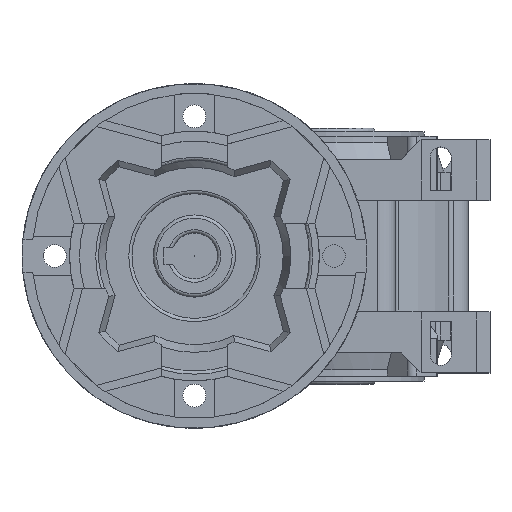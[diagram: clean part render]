
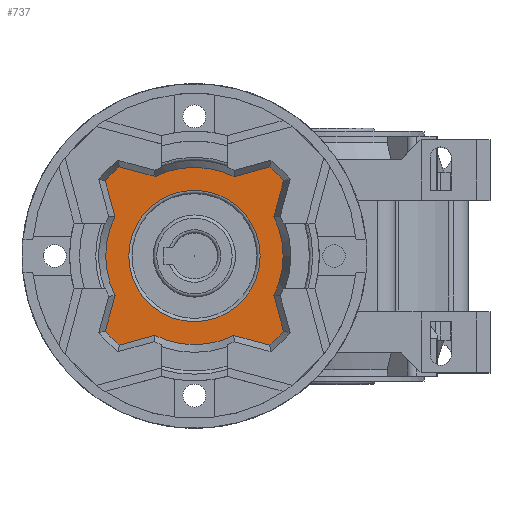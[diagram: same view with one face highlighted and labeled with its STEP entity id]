
A CAD part, top view. The second image highlights one B-rep face of the part: STEP entity #737.
In plain terms, the highlighted planar face has unit normal (0, 0, 1).
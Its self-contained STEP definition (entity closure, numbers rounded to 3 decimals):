
#737 = ADVANCED_FACE( '', ( #2104, #2105 ), #2106, .F. );
#2104 = FACE_BOUND( '', #4186, .T. );
#2105 = FACE_OUTER_BOUND( '', #4187, .T. );
#2106 = PLANE( '', #4188 );
#4186 = EDGE_LOOP( '', ( #6488 ) );
#4187 = EDGE_LOOP( '', ( #6489, #6490, #6491, #6492, #6493, #6494, #6495, #6496, #6497, #6498, #6499, #6500, #6501, #6502, #6503, #6504 ) );
#4188 = AXIS2_PLACEMENT_3D( '', #6505, #6506, #6507 );
#6488 = ORIENTED_EDGE( '', *, *, #12376, .T. );
#6489 = ORIENTED_EDGE( '', *, *, #12377, .F. );
#6490 = ORIENTED_EDGE( '', *, *, #12378, .F. );
#6491 = ORIENTED_EDGE( '', *, *, #12379, .F. );
#6492 = ORIENTED_EDGE( '', *, *, #12380, .F. );
#6493 = ORIENTED_EDGE( '', *, *, #12381, .F. );
#6494 = ORIENTED_EDGE( '', *, *, #12382, .F. );
#6495 = ORIENTED_EDGE( '', *, *, #12383, .F. );
#6496 = ORIENTED_EDGE( '', *, *, #12384, .F. );
#6497 = ORIENTED_EDGE( '', *, *, #12385, .F. );
#6498 = ORIENTED_EDGE( '', *, *, #12386, .F. );
#6499 = ORIENTED_EDGE( '', *, *, #12387, .F. );
#6500 = ORIENTED_EDGE( '', *, *, #12388, .F. );
#6501 = ORIENTED_EDGE( '', *, *, #12389, .F. );
#6502 = ORIENTED_EDGE( '', *, *, #12390, .F. );
#6503 = ORIENTED_EDGE( '', *, *, #12391, .F. );
#6504 = ORIENTED_EDGE( '', *, *, #12392, .F. );
#6505 = CARTESIAN_POINT( '', ( -40., -40., 6. ) );
#6506 = DIRECTION( '', ( 0., 0., -1. ) );
#6507 = DIRECTION( '', ( 1., 0., 0. ) );
#12376 = EDGE_CURVE( '', #14907, #14907, #14908, .T. );
#12377 = EDGE_CURVE( '', #14909, #14910, #14911, .T. );
#12378 = EDGE_CURVE( '', #14912, #14909, #14913, .T. );
#12379 = EDGE_CURVE( '', #14914, #14912, #14915, .T. );
#12380 = EDGE_CURVE( '', #14916, #14914, #14917, .T. );
#12381 = EDGE_CURVE( '', #14918, #14916, #14919, .T. );
#12382 = EDGE_CURVE( '', #14920, #14918, #14921, .T. );
#12383 = EDGE_CURVE( '', #14922, #14920, #14923, .T. );
#12384 = EDGE_CURVE( '', #14924, #14922, #14925, .T. );
#12385 = EDGE_CURVE( '', #14926, #14924, #14927, .T. );
#12386 = EDGE_CURVE( '', #14928, #14926, #14929, .T. );
#12387 = EDGE_CURVE( '', #14930, #14928, #14931, .T. );
#12388 = EDGE_CURVE( '', #14932, #14930, #14933, .T. );
#12389 = EDGE_CURVE( '', #14934, #14932, #14935, .T. );
#12390 = EDGE_CURVE( '', #14936, #14934, #14937, .T. );
#12391 = EDGE_CURVE( '', #14938, #14936, #14939, .T. );
#12392 = EDGE_CURVE( '', #14910, #14938, #14940, .T. );
#14907 = VERTEX_POINT( '', #18552 );
#14908 = CIRCLE( '', #18553, 20. );
#14909 = VERTEX_POINT( '', #18554 );
#14910 = VERTEX_POINT( '', #18555 );
#14911 = CIRCLE( '', #18556, 35.5 );
#14912 = VERTEX_POINT( '', #18557 );
#14913 = LINE( '', #18558, #18559 );
#14914 = VERTEX_POINT( '', #18560 );
#14915 = CIRCLE( '', #18561, 27. );
#14916 = VERTEX_POINT( '', #18562 );
#14917 = LINE( '', #18563, #18564 );
#14918 = VERTEX_POINT( '', #18565 );
#14919 = CIRCLE( '', #18566, 35.5 );
#14920 = VERTEX_POINT( '', #18567 );
#14921 = LINE( '', #18568, #18569 );
#14922 = VERTEX_POINT( '', #18570 );
#14923 = CIRCLE( '', #18571, 27. );
#14924 = VERTEX_POINT( '', #18572 );
#14925 = LINE( '', #18573, #18574 );
#14926 = VERTEX_POINT( '', #18575 );
#14927 = CIRCLE( '', #18576, 35.5 );
#14928 = VERTEX_POINT( '', #18577 );
#14929 = LINE( '', #18578, #18579 );
#14930 = VERTEX_POINT( '', #18580 );
#14931 = CIRCLE( '', #18581, 27. );
#14932 = VERTEX_POINT( '', #18582 );
#14933 = LINE( '', #18583, #18584 );
#14934 = VERTEX_POINT( '', #18585 );
#14935 = CIRCLE( '', #18586, 35.5 );
#14936 = VERTEX_POINT( '', #18587 );
#14937 = LINE( '', #18588, #18589 );
#14938 = VERTEX_POINT( '', #18590 );
#14939 = CIRCLE( '', #18591, 27. );
#14940 = LINE( '', #18592, #18593 );
#18552 = CARTESIAN_POINT( '', ( -20., -40., 6. ) );
#18553 = AXIS2_PLACEMENT_3D( '', #23839, #23840, #23841 );
#18554 = CARTESIAN_POINT( '', ( -67.134, -17.109, 6. ) );
#18555 = CARTESIAN_POINT( '', ( -62.891, -12.866, 6. ) );
#18556 = AXIS2_PLACEMENT_3D( '', #23842, #23843, #23844 );
#18557 = CARTESIAN_POINT( '', ( -64.205, -28.038, 6. ) );
#18558 = CARTESIAN_POINT( '', ( -59.593, -45.25, 6. ) );
#18559 = VECTOR( '', #23845, 1000. );
#18560 = CARTESIAN_POINT( '', ( -64.15, -52.073, 6. ) );
#18561 = AXIS2_PLACEMENT_3D( '', #23846, #23847, #23848 );
#18562 = CARTESIAN_POINT( '', ( -67.134, -62.891, 6. ) );
#18563 = CARTESIAN_POINT( '', ( -59.349, -34.664, 6. ) );
#18564 = VECTOR( '', #23849, 1000. );
#18565 = CARTESIAN_POINT( '', ( -62.891, -67.134, 6. ) );
#18566 = AXIS2_PLACEMENT_3D( '', #23850, #23851, #23852 );
#18567 = CARTESIAN_POINT( '', ( -52.073, -64.15, 6. ) );
#18568 = CARTESIAN_POINT( '', ( -34.664, -59.349, 6. ) );
#18569 = VECTOR( '', #23853, 1000. );
#18570 = CARTESIAN_POINT( '', ( -28.038, -64.205, 6. ) );
#18571 = AXIS2_PLACEMENT_3D( '', #23854, #23855, #23856 );
#18572 = CARTESIAN_POINT( '', ( -17.109, -67.134, 6. ) );
#18573 = CARTESIAN_POINT( '', ( -45.25, -59.593, 6. ) );
#18574 = VECTOR( '', #23857, 1000. );
#18575 = CARTESIAN_POINT( '', ( -12.866, -62.891, 6. ) );
#18576 = AXIS2_PLACEMENT_3D( '', #23858, #23859, #23860 );
#18577 = CARTESIAN_POINT( '', ( -15.795, -51.962, 6. ) );
#18578 = CARTESIAN_POINT( '', ( -20.407, -34.75, 6. ) );
#18579 = VECTOR( '', #23861, 1000. );
#18580 = CARTESIAN_POINT( '', ( -15.795, -28.038, 6. ) );
#18581 = AXIS2_PLACEMENT_3D( '', #23862, #23863, #23864 );
#18582 = CARTESIAN_POINT( '', ( -12.866, -17.109, 6. ) );
#18583 = CARTESIAN_POINT( '', ( -20.407, -45.25, 6. ) );
#18584 = VECTOR( '', #23865, 1000. );
#18585 = CARTESIAN_POINT( '', ( -17.109, -12.866, 6. ) );
#18586 = AXIS2_PLACEMENT_3D( '', #23866, #23867, #23868 );
#18587 = CARTESIAN_POINT( '', ( -27.927, -15.85, 6. ) );
#18588 = CARTESIAN_POINT( '', ( -45.336, -20.651, 6. ) );
#18589 = VECTOR( '', #23869, 1000. );
#18590 = CARTESIAN_POINT( '', ( -51.962, -15.795, 6. ) );
#18591 = AXIS2_PLACEMENT_3D( '', #23870, #23871, #23872 );
#18592 = CARTESIAN_POINT( '', ( -34.75, -20.407, 6. ) );
#18593 = VECTOR( '', #23873, 1000. );
#23839 = CARTESIAN_POINT( '', ( -40., -40., 6. ) );
#23840 = DIRECTION( '', ( 0., 0., -1. ) );
#23841 = DIRECTION( '', ( 1., 0., 0. ) );
#23842 = CARTESIAN_POINT( '', ( -40., -40., 6. ) );
#23843 = DIRECTION( '', ( 0., 0., -1. ) );
#23844 = DIRECTION( '', ( 0., 1., 0. ) );
#23845 = DIRECTION( '', ( -0.259, 0.966, 0. ) );
#23846 = CARTESIAN_POINT( '', ( -40., -40., 6. ) );
#23847 = DIRECTION( '', ( 0., 0., -1. ) );
#23848 = DIRECTION( '', ( 0., 1., 0. ) );
#23849 = DIRECTION( '', ( 0.266, 0.964, 0. ) );
#23850 = CARTESIAN_POINT( '', ( -40., -40., 6. ) );
#23851 = DIRECTION( '', ( 0., 0., -1. ) );
#23852 = DIRECTION( '', ( 0., 1., 0. ) );
#23853 = DIRECTION( '', ( -0.964, -0.266, 0. ) );
#23854 = CARTESIAN_POINT( '', ( -40., -40., 6. ) );
#23855 = DIRECTION( '', ( 0., 0., -1. ) );
#23856 = DIRECTION( '', ( 0., 1., 0. ) );
#23857 = DIRECTION( '', ( -0.966, 0.259, 0. ) );
#23858 = CARTESIAN_POINT( '', ( -40., -40., 6. ) );
#23859 = DIRECTION( '', ( 0., 0., -1. ) );
#23860 = DIRECTION( '', ( 0., 1., 0. ) );
#23861 = DIRECTION( '', ( 0.259, -0.966, 0. ) );
#23862 = CARTESIAN_POINT( '', ( -40., -40., 6. ) );
#23863 = DIRECTION( '', ( 0., 0., -1. ) );
#23864 = DIRECTION( '', ( 0., 1., 0. ) );
#23865 = DIRECTION( '', ( -0.259, -0.966, 0. ) );
#23866 = CARTESIAN_POINT( '', ( -40., -40., 6. ) );
#23867 = DIRECTION( '', ( 0., 0., -1. ) );
#23868 = DIRECTION( '', ( 0., 1., 0. ) );
#23869 = DIRECTION( '', ( 0.964, 0.266, 0. ) );
#23870 = CARTESIAN_POINT( '', ( -40., -40., 6. ) );
#23871 = DIRECTION( '', ( 0., 0., -1. ) );
#23872 = DIRECTION( '', ( 0., -1., 0. ) );
#23873 = DIRECTION( '', ( 0.966, -0.259, 0. ) );
